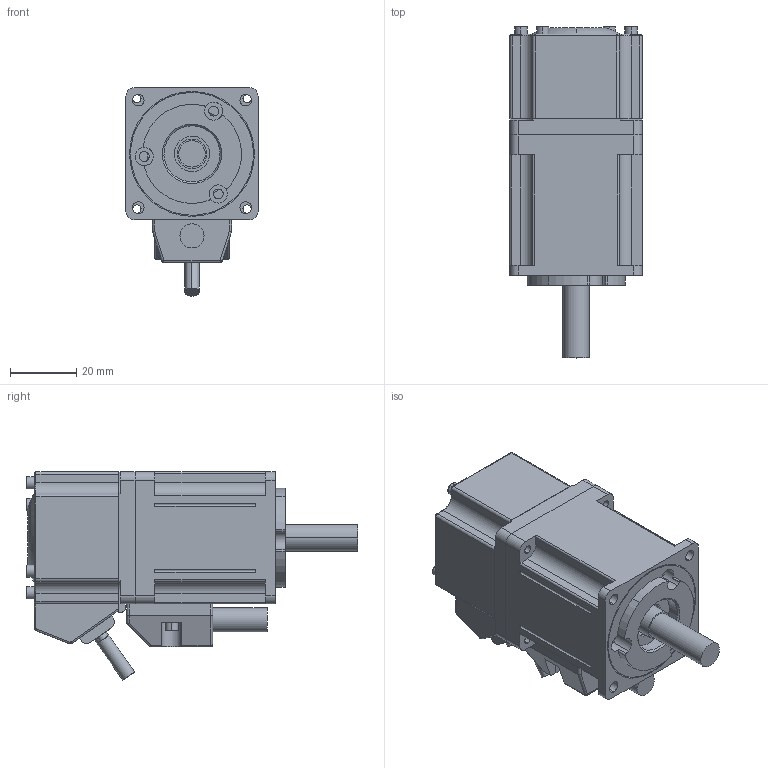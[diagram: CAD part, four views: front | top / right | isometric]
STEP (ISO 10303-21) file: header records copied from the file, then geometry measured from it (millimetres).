
FILE_DESCRIPTION (( 'STEP AP203' ), '1' );
FILE_NAME ('40ST-M00130.STEP', '2020-06-02T06:34:20', ( 'zengjxin' ), ( 'Microsoft' ), 'SwSTEP 2.0', 'SolidWorks 2016', '' );
FILE_SCHEMA (( 'CONFIG_CONTROL_DESIGN' ));
Length unit declared in the file: millimetre
Products named in the file (1): 40ST-M00130
Bounding box: 40 x 100.5 x 63.09 mm (x, y, z)
Surface area: 22301.3 mm2 (no closed solid volume)
Topology: 0 solids, 7 shells, 361 faces, 956 edges, 612 vertices
Faces by surface type: cylinder 166, plane 155, torus 28, sphere 10, cone 2
Entity records: 11230 total; most frequent: DIRECTION 2060, CARTESIAN_POINT 1934, ORIENTED_EDGE 1795, EDGE_CURVE 948, AXIS2_PLACEMENT_3D 754, VERTEX_POINT 612, VECTOR 552, LINE 552
